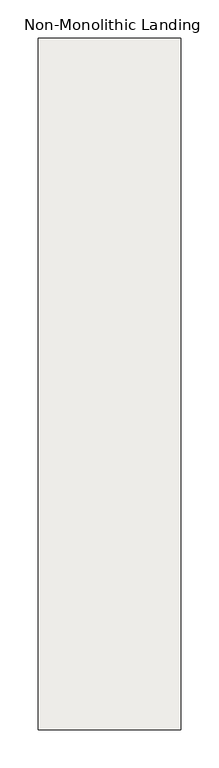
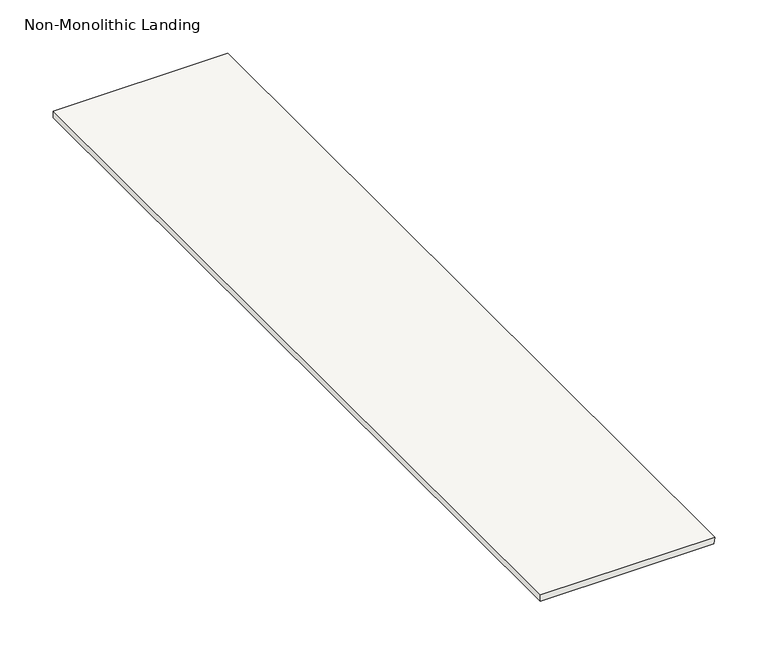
"""IFC4 building model written with IfcOpenShell, lengths in millimetres: slab geometry, Non-Monolithic Landing."""

from ifc_helpers import new_model, si_unit, frame, origin, place, context, project, spatial, polyline, outline, extrude, source, transform, mapped, element, save


def non_monolithic_landing_c41cb356(model_context):
    return source(origin(), model_context, "Body", "SweptSolid", [
        extrude(outline(polyline([(6700.0, 12700.5000334), (6700.0, 12512.5), (6692.5, 12512.5), (6692.5, 12699.6818516), (6700.0, 12700.5000334)])), frame((0.0, 7849.9999985, 0.0), z_axis=(0.0, 1.0, 0.0), x_axis=(0.0, 0.0, 1.0)), (0.0, 0.0, 1.0), 910.0),
    ])


if __name__ == "__main__":
    model = new_model("IFC4")
    model_context = context("Model", 3, world=origin())
    ifc_project = project(units=[si_unit("LENGTHUNIT", "METRE", prefix="MILLI")], contexts=[model_context])
    site = spatial("IfcSite", under=ifc_project)
    building = spatial("IfcBuilding", under=site)
    placement = place(None, origin())
    non_monolithic_landing_shape = non_monolithic_landing_c41cb356(model_context)
    element("IfcSlab", 1, ObjectType="Non-Monolithic Landing", at=placement, inside=building, context=model_context, shape_type="MappedRepresentation", body=[
        mapped(non_monolithic_landing_shape, transform((0.0, 0.0, 0.0), x_axis=(1.0, 0.0, 0.0), y_axis=(0.0, 1.0, 0.0), z_axis=(0.0, 0.0, 1.0))),
    ])
    save(model, "model.ifc")
